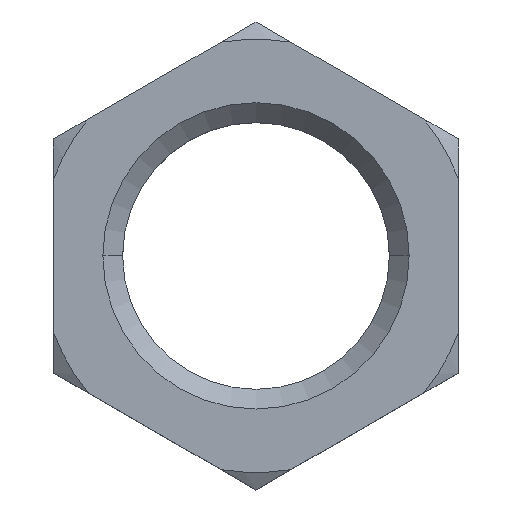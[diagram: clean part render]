
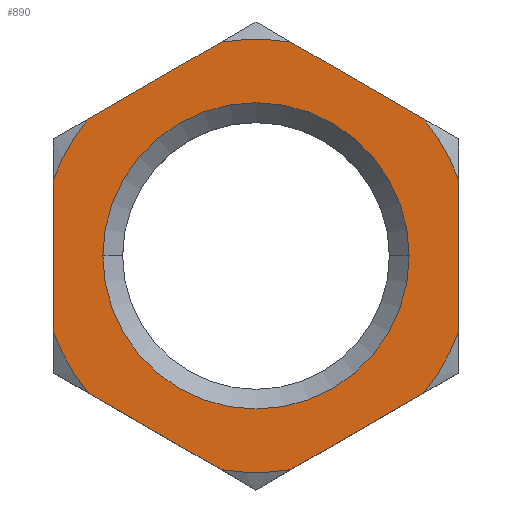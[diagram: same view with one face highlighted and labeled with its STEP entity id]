
A CAD part, top view. The second image highlights one B-rep face of the part: STEP entity #890.
In plain terms, the highlighted planar face has unit normal (0, 0, 1).
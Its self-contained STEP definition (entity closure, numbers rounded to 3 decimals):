
#23 = VERTEX_POINT ( 'NONE', #860 ) ;
#49 = FACE_BOUND ( 'NONE', #399, .T. ) ;
#54 = ORIENTED_EDGE ( 'NONE', *, *, #280, .T. ) ;
#59 = CARTESIAN_POINT ( 'NONE',  ( 20.5, 7.765, 6.2 ) ) ;
#71 = ORIENTED_EDGE ( 'NONE', *, *, #466, .T. ) ;
#72 = CARTESIAN_POINT ( 'NONE',  ( 0., 0., 6.2 ) ) ;
#80 = VERTEX_POINT ( 'NONE', #733 ) ;
#91 = CARTESIAN_POINT ( 'NONE',  ( 3.525, -21.636, 6.2 ) ) ;
#94 = DIRECTION ( 'NONE',  ( -0.866, -0.5, 0. ) ) ;
#95 = EDGE_CURVE ( 'NONE', #704, #538, #894, .T. ) ;
#102 = CARTESIAN_POINT ( 'NONE',  ( -20.5, 11.836, 6.2 ) ) ;
#104 = CARTESIAN_POINT ( 'NONE',  ( -16.975, 13.871, 6.2 ) ) ;
#108 = CARTESIAN_POINT ( 'NONE',  ( 0., 0., 6.2 ) ) ;
#110 = ORIENTED_EDGE ( 'NONE', *, *, #390, .F. ) ;
#112 = CARTESIAN_POINT ( 'NONE',  ( 0., 0., 6.2 ) ) ;
#114 = CARTESIAN_POINT ( 'NONE',  ( -3.525, 21.636, 6.2 ) ) ;
#117 = EDGE_CURVE ( 'NONE', #131, #23, #284, .T. ) ;
#123 = AXIS2_PLACEMENT_3D ( 'NONE', #72, #782, #362 ) ;
#124 = VERTEX_POINT ( 'NONE', #170 ) ;
#131 = VERTEX_POINT ( 'NONE', #114 ) ;
#138 = DIRECTION ( 'NONE',  ( -0.866, 0.5, 0. ) ) ;
#144 = DIRECTION ( 'NONE',  ( -1., 0., 0. ) ) ;
#170 = CARTESIAN_POINT ( 'NONE',  ( 16.975, -13.871, 6.2 ) ) ;
#205 = DIRECTION ( 'NONE',  ( 0., 1., 0. ) ) ;
#216 = AXIS2_PLACEMENT_3D ( 'NONE', #735, #731, #391 ) ;
#229 = CARTESIAN_POINT ( 'NONE',  ( -20.5, -11.836, 6.2 ) ) ;
#263 = ORIENTED_EDGE ( 'NONE', *, *, #659, .T. ) ;
#264 = DIRECTION ( 'NONE',  ( 0., 0., -1. ) ) ;
#268 = LINE ( 'NONE', #290, #590 ) ;
#277 = CARTESIAN_POINT ( 'NONE',  ( 0., 0., 6.2 ) ) ;
#280 = EDGE_CURVE ( 'NONE', #545, #689, #858, .T. ) ;
#284 = CIRCLE ( 'NONE', #536, 21.921 ) ;
#285 = LINE ( 'NONE', #229, #349 ) ;
#290 = CARTESIAN_POINT ( 'NONE',  ( 0., -23.671, 6.2 ) ) ;
#292 = AXIS2_PLACEMENT_3D ( 'NONE', #416, #843, #840 ) ;
#295 = DIRECTION ( 'NONE',  ( 0., -1., 0. ) ) ;
#304 = CARTESIAN_POINT ( 'NONE',  ( 0., 0., 6.2 ) ) ;
#308 = ORIENTED_EDGE ( 'NONE', *, *, #593, .F. ) ;
#325 = AXIS2_PLACEMENT_3D ( 'NONE', #520, #375, #870 ) ;
#331 = ORIENTED_EDGE ( 'NONE', *, *, #886, .F. ) ;
#349 = VECTOR ( 'NONE', #639, 1000. ) ;
#354 = VERTEX_POINT ( 'NONE', #790 ) ;
#357 = ORIENTED_EDGE ( 'NONE', *, *, #567, .T. ) ;
#362 = DIRECTION ( 'NONE',  ( 1., 0., 0. ) ) ;
#373 = VECTOR ( 'NONE', #295, 1000. ) ;
#375 = DIRECTION ( 'NONE',  ( 0., 0., -1. ) ) ;
#390 = EDGE_CURVE ( 'NONE', #600, #689, #586, .T. ) ;
#391 = DIRECTION ( 'NONE',  ( -1., 0., 0. ) ) ;
#393 = CARTESIAN_POINT ( 'NONE',  ( 0., 0., 6.2 ) ) ;
#399 = EDGE_LOOP ( 'NONE', ( #582, #422 ) ) ;
#416 = CARTESIAN_POINT ( 'NONE',  ( 0., 0., 6.2 ) ) ;
#422 = ORIENTED_EDGE ( 'NONE', *, *, #509, .T. ) ;
#424 = DIRECTION ( 'NONE',  ( 0.866, 0.5, 0. ) ) ;
#435 = CIRCLE ( 'NONE', #216, 21.921 ) ;
#438 = CARTESIAN_POINT ( 'NONE',  ( 0., 23.671, 6.2 ) ) ;
#443 = DIRECTION ( 'NONE',  ( 0., 0., -1. ) ) ;
#452 = VECTOR ( 'NONE', #138, 1000. ) ;
#461 = EDGE_CURVE ( 'NONE', #846, #124, #268, .T. ) ;
#466 = EDGE_CURVE ( 'NONE', #578, #831, #285, .T. ) ;
#483 = DIRECTION ( 'NONE',  ( 0., 0., -1. ) ) ;
#486 = AXIS2_PLACEMENT_3D ( 'NONE', #304, #443, #645 ) ;
#500 = CARTESIAN_POINT ( 'NONE',  ( -16.975, -13.871, 6.2 ) ) ;
#503 = ORIENTED_EDGE ( 'NONE', *, *, #603, .F. ) ;
#505 = CARTESIAN_POINT ( 'NONE',  ( -20.5, -7.765, 6.2 ) ) ;
#509 = EDGE_CURVE ( 'NONE', #80, #354, #724, .T. ) ;
#510 = ORIENTED_EDGE ( 'NONE', *, *, #95, .F. ) ;
#520 = CARTESIAN_POINT ( 'NONE',  ( 0., 0., 6.2 ) ) ;
#533 = CIRCLE ( 'NONE', #292, 15.5 ) ;
#536 = AXIS2_PLACEMENT_3D ( 'NONE', #108, #585, #664 ) ;
#538 = VERTEX_POINT ( 'NONE', #104 ) ;
#545 = VERTEX_POINT ( 'NONE', #719 ) ;
#548 = VECTOR ( 'NONE', #94, 1000. ) ;
#553 = ORIENTED_EDGE ( 'NONE', *, *, #461, .T. ) ;
#567 = EDGE_CURVE ( 'NONE', #131, #538, #697, .T. ) ;
#573 = CIRCLE ( 'NONE', #756, 21.921 ) ;
#578 = VERTEX_POINT ( 'NONE', #500 ) ;
#582 = ORIENTED_EDGE ( 'NONE', *, *, #674, .T. ) ;
#585 = DIRECTION ( 'NONE',  ( 0., 0., -1. ) ) ;
#586 = CIRCLE ( 'NONE', #651, 21.921 ) ;
#590 = VECTOR ( 'NONE', #424, 1000. ) ;
#593 = EDGE_CURVE ( 'NONE', #545, #124, #738, .T. ) ;
#594 = DIRECTION ( 'NONE',  ( 1., 0., 0. ) ) ;
#596 = DIRECTION ( 'NONE',  ( -1., 0., 0. ) ) ;
#600 = VERTEX_POINT ( 'NONE', #692 ) ;
#603 = EDGE_CURVE ( 'NONE', #578, #867, #573, .T. ) ;
#620 = LINE ( 'NONE', #625, #452 ) ;
#625 = CARTESIAN_POINT ( 'NONE',  ( 20.5, 11.836, 6.2 ) ) ;
#639 = DIRECTION ( 'NONE',  ( 0.866, -0.5, 0. ) ) ;
#645 = DIRECTION ( 'NONE',  ( -1., 0., 0. ) ) ;
#651 = AXIS2_PLACEMENT_3D ( 'NONE', #393, #264, #596 ) ;
#659 = EDGE_CURVE ( 'NONE', #600, #23, #620, .T. ) ;
#664 = DIRECTION ( 'NONE',  ( -1., 0., 0. ) ) ;
#669 = DIRECTION ( 'NONE',  ( 0., 0., 1. ) ) ;
#672 = VECTOR ( 'NONE', #205, 1000. ) ;
#674 = EDGE_CURVE ( 'NONE', #354, #80, #533, .T. ) ;
#686 = CARTESIAN_POINT ( 'NONE',  ( 20.5, -11.836, 6.2 ) ) ;
#689 = VERTEX_POINT ( 'NONE', #59 ) ;
#692 = CARTESIAN_POINT ( 'NONE',  ( 16.975, 13.871, 6.2 ) ) ;
#697 = LINE ( 'NONE', #438, #548 ) ;
#704 = VERTEX_POINT ( 'NONE', #906 ) ;
#719 = CARTESIAN_POINT ( 'NONE',  ( 20.5, -7.765, 6.2 ) ) ;
#724 = CIRCLE ( 'NONE', #123, 15.5 ) ;
#731 = DIRECTION ( 'NONE',  ( 0., 0., -1. ) ) ;
#733 = CARTESIAN_POINT ( 'NONE',  ( -15.5, 0., 6.2 ) ) ;
#735 = CARTESIAN_POINT ( 'NONE',  ( 0., 0., 6.2 ) ) ;
#738 = CIRCLE ( 'NONE', #486, 21.921 ) ;
#739 = ORIENTED_EDGE ( 'NONE', *, *, #751, .T. ) ;
#747 = LINE ( 'NONE', #102, #373 ) ;
#751 = EDGE_CURVE ( 'NONE', #704, #867, #747, .T. ) ;
#756 = AXIS2_PLACEMENT_3D ( 'NONE', #277, #483, #144 ) ;
#761 = FACE_OUTER_BOUND ( 'NONE', #823, .T. ) ;
#782 = DIRECTION ( 'NONE',  ( 0., 0., -1. ) ) ;
#785 = ORIENTED_EDGE ( 'NONE', *, *, #117, .F. ) ;
#790 = CARTESIAN_POINT ( 'NONE',  ( 15.5, 0., 6.2 ) ) ;
#801 = PLANE ( 'NONE',  #900 ) ;
#823 = EDGE_LOOP ( 'NONE', ( #308, #54, #110, #263, #785, #357, #510, #739, #503, #71, #331, #553 ) ) ;
#831 = VERTEX_POINT ( 'NONE', #869 ) ;
#840 = DIRECTION ( 'NONE',  ( 1., 0., 0. ) ) ;
#843 = DIRECTION ( 'NONE',  ( 0., 0., -1. ) ) ;
#846 = VERTEX_POINT ( 'NONE', #91 ) ;
#858 = LINE ( 'NONE', #686, #672 ) ;
#860 = CARTESIAN_POINT ( 'NONE',  ( 3.525, 21.636, 6.2 ) ) ;
#867 = VERTEX_POINT ( 'NONE', #505 ) ;
#869 = CARTESIAN_POINT ( 'NONE',  ( -3.525, -21.636, 6.2 ) ) ;
#870 = DIRECTION ( 'NONE',  ( -1., 0., 0. ) ) ;
#886 = EDGE_CURVE ( 'NONE', #846, #831, #435, .T. ) ;
#890 = ADVANCED_FACE ( 'NONE', ( #49, #761 ), #801, .T. ) ;
#894 = CIRCLE ( 'NONE', #325, 21.921 ) ;
#900 = AXIS2_PLACEMENT_3D ( 'NONE', #112, #669, #594 ) ;
#906 = CARTESIAN_POINT ( 'NONE',  ( -20.5, 7.765, 6.2 ) ) ;
